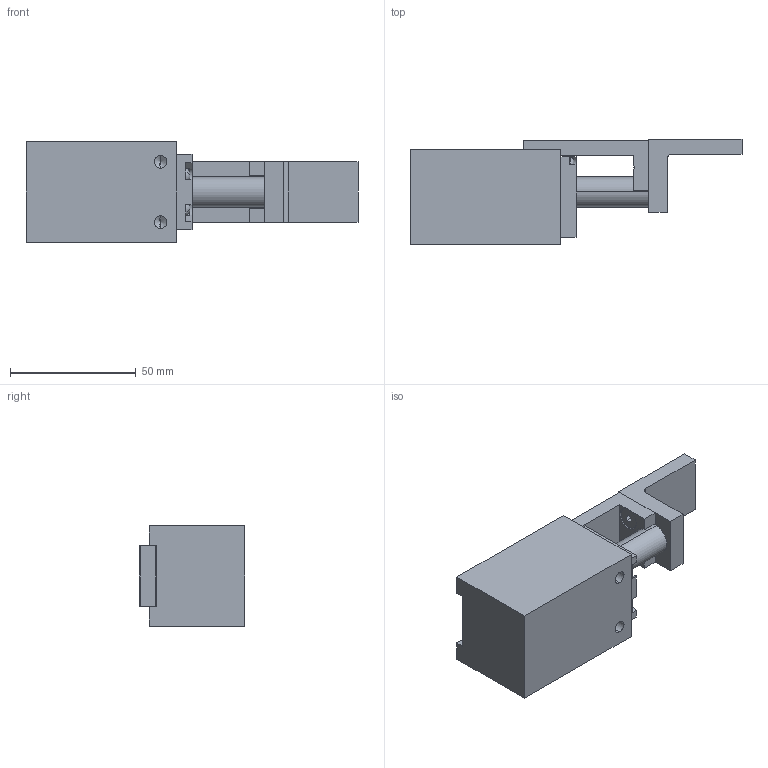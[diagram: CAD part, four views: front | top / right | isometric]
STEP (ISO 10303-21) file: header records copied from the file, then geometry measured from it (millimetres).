
FILE_DESCRIPTION (( 'STEP AP203' ), '1' );
FILE_NAME ('DBSQ-65-W_Ausgefahren.STEP', '2018-05-11T06:06:49', ( '' ), ( '' ), 'SwSTEP 2.0', 'SolidWorks 2017', '' );
FILE_SCHEMA (( 'CONFIG_CONTROL_DESIGN' ));
Length unit declared in the file: millimetre
Products named in the file (1): DBSQ-65-W_Ausgefahren
Bounding box: 132 x 41.99 x 40 mm (x, y, z)
Volume: 112173.9 mm3; surface area: 23206.9 mm2
Topology: 3 solids, 5 shells, 208 faces, 520 edges, 328 vertices
Faces by surface type: plane 126, cylinder 54, cone 20, torus 4, sphere 4
Entity records: 6204 total; most frequent: CARTESIAN_POINT 1127, DIRECTION 1061, ORIENTED_EDGE 1020, EDGE_CURVE 510, AXIS2_PLACEMENT_3D 366, LINE 329, VECTOR 329, VERTEX_POINT 328
